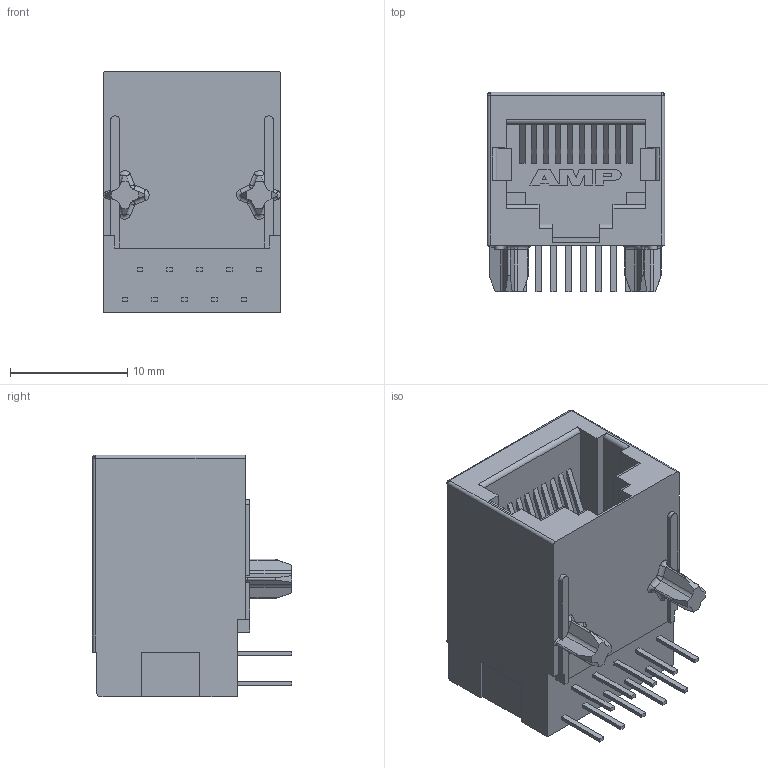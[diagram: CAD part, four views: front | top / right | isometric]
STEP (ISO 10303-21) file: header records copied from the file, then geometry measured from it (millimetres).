
FILE_DESCRIPTION (( 'STEP AP214' ), '1' );
FILE_NAME ('5558065-1.step', '2011-05-17T08:54:21', ( 'vpeshkov' ), ( 'licard' ), 'SwSTEP 2.0', 'SolidWorks 2009', '' );
FILE_SCHEMA (( 'AUTOMOTIVE_DESIGN' ));
Length unit declared in the file: millimetre
Products named in the file (1): 5558065-1
Bounding box: 15.11 x 16.94 x 20.57 mm (x, y, z)
Volume: 2823.3 mm3; surface area: 2403.2 mm2
Topology: 1 solids, 1 shells, 291 faces, 784 edges, 507 vertices
Faces by surface type: plane 222, cylinder 51, torus 10, sphere 4, bspline 4
Entity records: 10157 total; most frequent: CARTESIAN_POINT 1846, ORIENTED_EDGE 1560, DIRECTION 1409, EDGE_CURVE 780, VECTOR 653, LINE 653, VERTEX_POINT 507, AXIS2_PLACEMENT_3D 378
